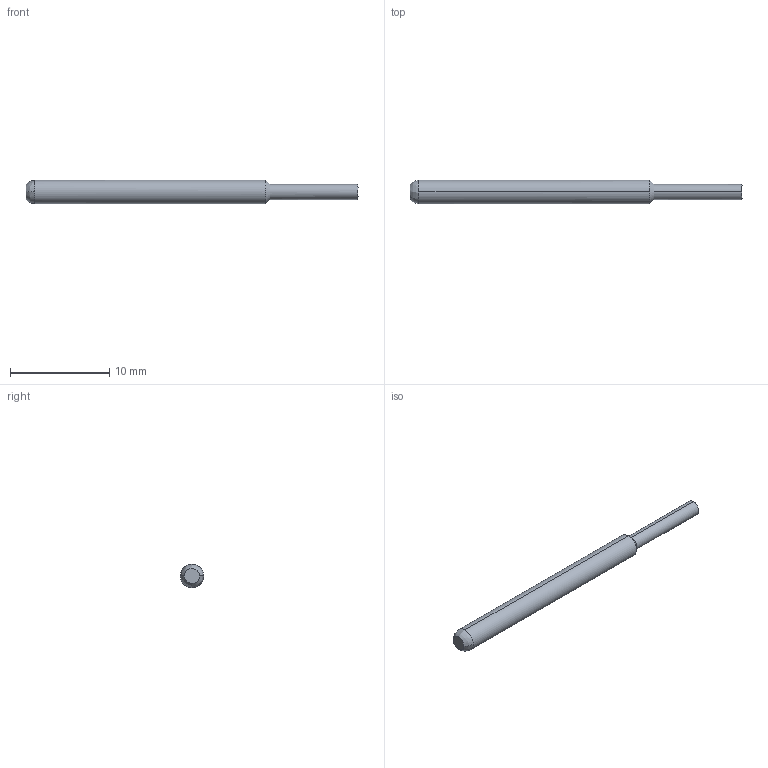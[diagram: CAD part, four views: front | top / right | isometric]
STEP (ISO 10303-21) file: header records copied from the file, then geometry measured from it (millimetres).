
FILE_DESCRIPTION (( 'STEP AP214' ), '1' );
FILE_NAME ('PA6C.STEP', '2025-03-26T12:03:50', ( '' ), ( '' ), 'SwSTEP 2.0', 'SolidWorks 2024', '' );
FILE_SCHEMA (( 'AUTOMOTIVE_DESIGN' ));
Length unit declared in the file: inch
Products named in the file (1): PA6C
Bounding box: 33.53 x 2.36 x 2.36 mm (x, y, z)
Volume: 122.9 mm3; surface area: 229.6 mm2
Topology: 1 solids, 1 shells, 10 faces, 20 edges, 12 vertices
Faces by surface type: bspline 10
Entity records: 507 total; most frequent: CARTESIAN_POINT 229, ORIENTED_EDGE 40, EDGE_CURVE 20, UNCERTAINTY_MEASURE_WITH_UNIT 12, VERTEX_POINT 12, DIMENSIONAL_EXPONENTS 12, LENGTH_MEASURE_WITH_UNIT 12, FILL_AREA_STYLE_COLOUR 11
